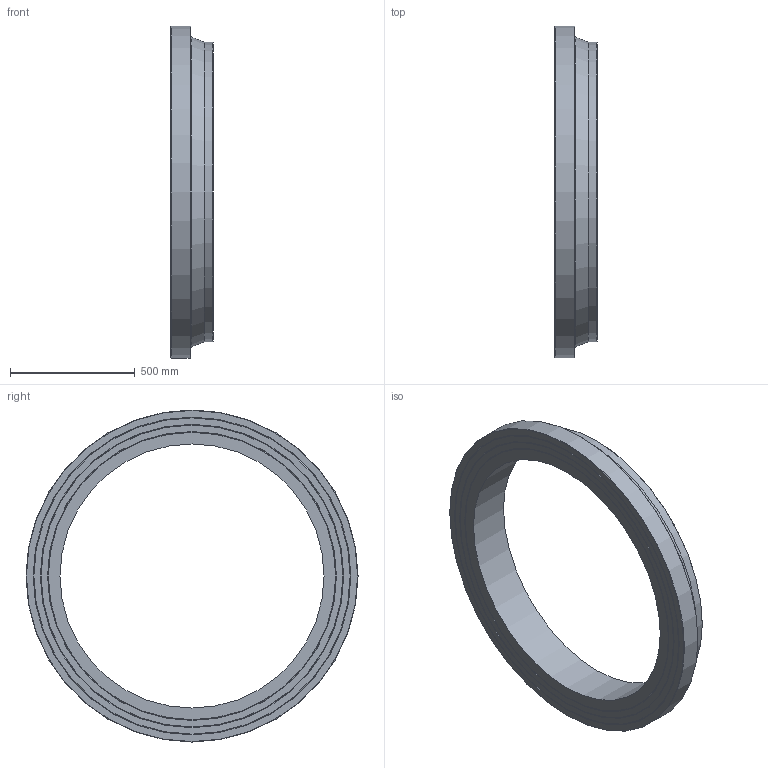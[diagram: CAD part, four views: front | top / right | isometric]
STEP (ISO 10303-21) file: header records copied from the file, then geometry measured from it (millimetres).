
FILE_DESCRIPTION(/* description */ ('Unknown'),/* implementation_level */ '2;1');
FILE_NAME(/* name */ 'CCP1200B',/* time_stamp */ '2022-04-05T09:07:23+02:00',/* author */ ('Unknown'),/* organization */ ('Unknown'),/* preprocessor_version */ 'ST-DEVELOPER v18.1',/* originating_system */ 'Solid Edge',/* authorisation */ 'Unknown');
FILE_SCHEMA (('AUTOMOTIVE_DESIGN {1 0 10303 214 3 1 1}'));
Length unit declared in the file: millimetre
Products named in the file (1): CCP1200B
Bounding box: 170 x 1331 x 1331 mm (x, y, z)
Volume: 65541794.8 mm3; surface area: 2185196.8 mm2
Topology: 1 solids, 1 shells, 20 faces, 35 edges, 21 vertices
Faces by surface type: cone 10, plane 6, cylinder 3, torus 1
Full cylindrical faces by diameter (mm): 1058.8 x1, 1200 x1, 1331 x1
Entity records: 438 total; most frequent: DIRECTION 82, CARTESIAN_POINT 61, AXIS2_PLACEMENT_3D 41, ORIENTED_EDGE 40, EDGE_LOOP 40, FACE_BOUND 40, EDGE_CURVE 20, VERTEX_POINT 20
